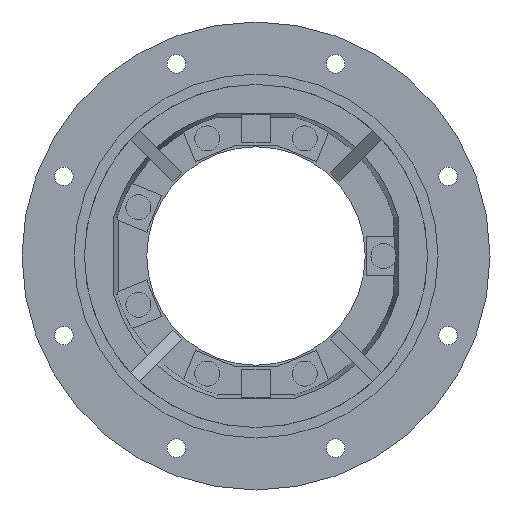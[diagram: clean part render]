
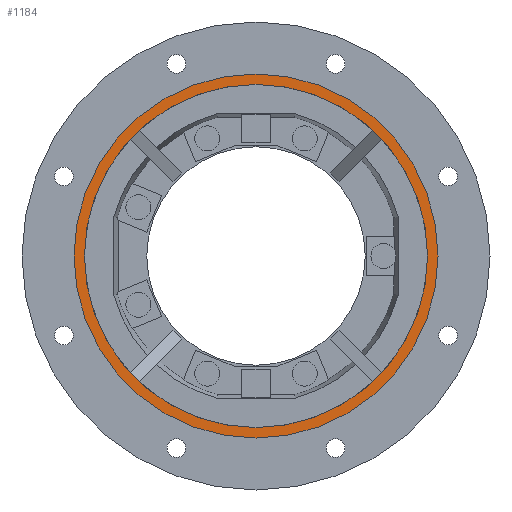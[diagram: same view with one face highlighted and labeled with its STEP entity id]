
A CAD part, left-side view. The second image highlights one B-rep face of the part: STEP entity #1184.
In plain terms, the highlighted planar face has unit normal (-1, 0, 0) as drawn and (1, 0, 0) by its records, which use the part's own axes.
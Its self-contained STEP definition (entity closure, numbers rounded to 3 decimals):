
#1184=ADVANCED_FACE('',(#1353,#1321),#3649,.T.);
#1321=FACE_BOUND('',#1520,.T.);
#1353=FACE_OUTER_BOUND('',#1519,.T.);
#1519=EDGE_LOOP('',(#1953,#1954));
#1520=EDGE_LOOP('',(#1955,#1956));
#1953=ORIENTED_EDGE('',*,*,#2769,.F.);
#1954=ORIENTED_EDGE('',*,*,#2546,.F.);
#1955=ORIENTED_EDGE('',*,*,#2791,.F.);
#1956=ORIENTED_EDGE('',*,*,#2585,.F.);
#2546=EDGE_CURVE('',#3509,#3557,#2859,.T.);
#2585=EDGE_CURVE('',#3510,#3569,#2887,.T.);
#2769=EDGE_CURVE('',#3557,#3509,#2910,.T.);
#2791=EDGE_CURVE('',#3569,#3510,#2922,.T.);
#2859=TRIMMED_CURVE($,#2974,(#5442),(#5443),.T.,.CARTESIAN.);
#2887=TRIMMED_CURVE($,#3002,(#5548),(#5549),.T.,.CARTESIAN.);
#2910=TRIMMED_CURVE($,#3025,(#6015),(#6016),.T.,.CARTESIAN.);
#2922=TRIMMED_CURVE($,#3037,(#6071),(#6072),.T.,.CARTESIAN.);
#2974=CIRCLE('',#4069,175.);
#3002=CIRCLE('',#4097,165.);
#3025=CIRCLE('',#4120,175.);
#3037=CIRCLE('',#4132,165.);
#3509=VERTEX_POINT('',#5053);
#3510=VERTEX_POINT('',#5054);
#3557=VERTEX_POINT('',#5101);
#3569=VERTEX_POINT('',#5113);
#3649=PLANE('',#3920);
#3920=AXIS2_PLACEMENT_3D('',#4753,#4171,$);
#4069=AXIS2_PLACEMENT_3D($,#5441,#4356,#4357);
#4097=AXIS2_PLACEMENT_3D($,#5547,#4412,#4413);
#4120=AXIS2_PLACEMENT_3D($,#6014,#4458,#4459);
#4132=AXIS2_PLACEMENT_3D($,#6070,#4482,#4483);
#4171=DIRECTION('',(1.,0.,0.));
#4356=DIRECTION('',(-1.,0.,0.));
#4357=DIRECTION('',(0.,0.,-1.));
#4412=DIRECTION('',(1.,0.,0.));
#4413=DIRECTION('',(0.,0.,-1.));
#4458=DIRECTION('',(-1.,0.,0.));
#4459=DIRECTION('',(0.,0.,1.));
#4482=DIRECTION('',(1.,0.,0.));
#4483=DIRECTION('',(0.,0.,1.));
#4753=CARTESIAN_POINT('',(50.,-210.,-210.));
#5053=CARTESIAN_POINT('',(50.,0.,-175.));
#5054=CARTESIAN_POINT('',(50.,0.,-165.));
#5101=CARTESIAN_POINT('',(50.,0.,175.));
#5113=CARTESIAN_POINT('',(50.,0.,165.));
#5441=CARTESIAN_POINT('',(50.,0.,0.));
#5442=CARTESIAN_POINT('',(50.,0.,-175.));
#5443=CARTESIAN_POINT('',(50.,0.,175.));
#5547=CARTESIAN_POINT('',(50.,0.,0.));
#5548=CARTESIAN_POINT('',(50.,0.,-165.));
#5549=CARTESIAN_POINT('',(50.,0.,165.));
#6014=CARTESIAN_POINT('',(50.,0.,0.));
#6015=CARTESIAN_POINT('',(50.,0.,175.));
#6016=CARTESIAN_POINT('',(50.,0.,-175.));
#6070=CARTESIAN_POINT('',(50.,0.,0.));
#6071=CARTESIAN_POINT('',(50.,0.,165.));
#6072=CARTESIAN_POINT('',(50.,0.,-165.));
